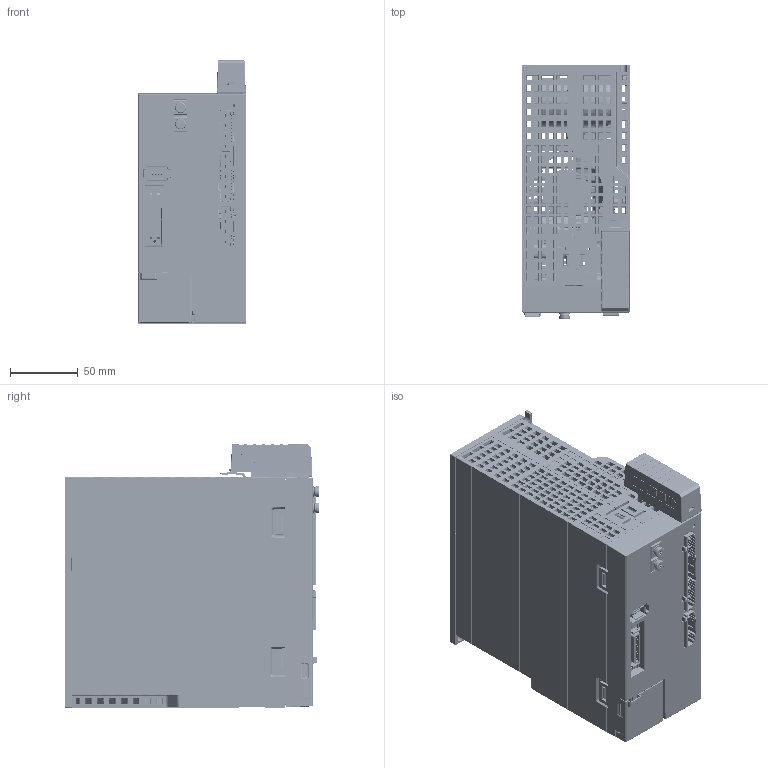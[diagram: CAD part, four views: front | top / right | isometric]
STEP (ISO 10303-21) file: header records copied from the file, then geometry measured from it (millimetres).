
FILE_DESCRIPTION((''),'2;1');
FILE_NAME('000-FD445P-AYYED_ASM','2025-07-07T09:49:45',('19759'),(''),'CREO PARAMETRIC BY PTC INC, 2016510','CREO PARAMETRIC BY PTC INC, 2016510','');
FILE_SCHEMA(('CONFIG_CONTROL_DESIGN','SHAPE_APPEARANCE_LAYERS_GROUPS'));
Products named in the file (50): FD445P-A; F9C-7-7_5-09P; 09P_ASM; F9C-7-7_5-04P; 04P_ASM; 35X58_SNAP; C-4-2842289-0-A-3D; TRANS; SAMPLING_RESISTOR; SM_TO-3PH; 00-FD445P-PCB-A_ASM; FD435P-B; SCSI_FEMALE1; MALE_ASM; CON_1394_90; CON-1394_ASM; USER_LIBRARY-USB-MINI-B_1; USB-MIN_ASM_1_ASM; USB-MIN_ASM_ASM; RJ45; 00-FD435P-PCB-B_ASM; PCB2_FD5P_X; LCD_MONITOR; SWITCH; ESL-SWITCH; ASSY_PCB2_FD5P_ASM; FD445P_HT-20250519_0_6MM; FD445P-HT_ASM; 445P-F_20240523; FD445P-FRONT-PANEL_ASM; 445P-L-20240523; FD445P-LEFT_COVER_ASM; FD445P-RIGHT_COVER_20240311A; FD445P-RIGHT_COVER_ASM; PL_FRONT_LCD_COVER_MOLD; FAN_6025; ADMI19106E1645KV_1; ADMI19106E1645KV_2; ADMI19106E1645KV_ASM; FD415DCHT-0821_ASM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
Assembly tree (78 placements, depth 5):
  000-FD445P-AYYED_ASM
    00-FD445P-PCB-A_ASM
      FD445P-A
      09P_ASM
        F9C-7-7_5-09P
      04P_ASM
        F9C-7-7_5-04P
      35X58_SNAP  x2
      C-4-2842289-0-A-3D
      TRANS
      SAMPLING_RESISTOR  x10
      SM_TO-3PH
    00-FD435P-PCB-B_ASM
      FD435P-B
      MALE_ASM
        SCSI_FEMALE1
      CON-1394_ASM
        CON_1394_90
      USB-MIN_ASM_ASM
        USB-MIN_ASM_1_ASM
          USER_LIBRARY-USB-MINI-B_1
      RJ45
      C-4-2842289-0-A-3D
    ASSY_PCB2_FD5P_ASM
      PCB2_FD5P_X
      LCD_MONITOR
      SWITCH  x4
      ESL-SWITCH
    FD445P-HT_ASM
      FD445P_HT-20250519_0_6MM
    FD445P-FRONT-PANEL_ASM
      445P-F_20240523
    FD445P-LEFT_COVER_ASM
      445P-L-20240523
    FD445P-RIGHT_COVER_ASM
      FD445P-RIGHT_COVER_20240311A
    PL_FRONT_LCD_COVER_MOLD
    FAN_6025
    FD415DCHT-0821_ASM
      ADMI19106E1645KV_ASM
        ADMI19106E1645KV_1
        ADMI19106E1645KV_2
    ASSY_50W300RJXX_ASM
      50W300RJXX
    SCREW_M3X10  x13
    SCREW_M4X12  x4
    EVA_FD445P
    TIM
    SCREW_M3X8
    DRZC-1
    FD445P-V1_1_2024080001
Bounding box: 80.3 x 188 x 194.2 mm (x, y, z)
Volume: 508887.1 mm3; surface area: 630409.2 mm2
Topology: 69 solids, 71 shells, 16053 faces, 42758 edges, 27234 vertices
Faces by surface type: plane 10555, cylinder 3473, bspline 884, torus 624, cone 326, sphere 169, extrusion 22
Entity records: 574488 total; most frequent: CARTESIAN_POINT 124341, ORIENTED_EDGE 75293, DIRECTION 65104, EDGE_CURVE 37652, PRESENTATION_STYLE_ASSIGNMENT 33661, STYLED_ITEM 33100, CURVE_STYLE 32879, VECTOR 28580
